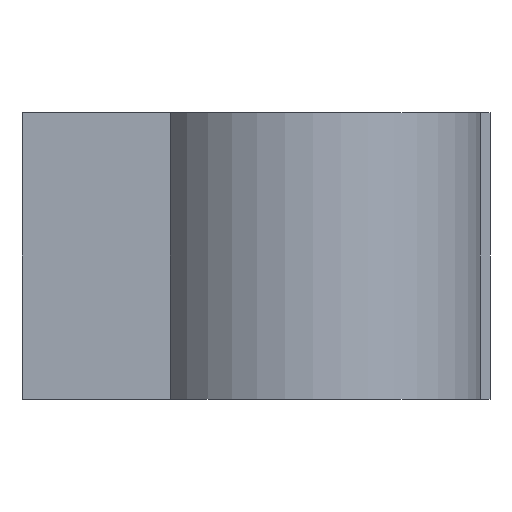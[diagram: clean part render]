
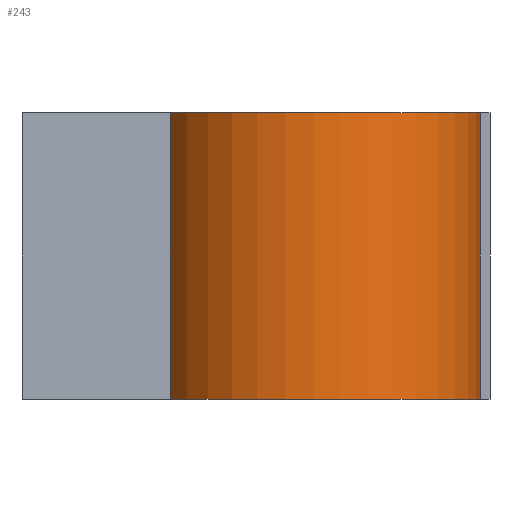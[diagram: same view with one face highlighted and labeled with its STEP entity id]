
A CAD part, front view. The second image highlights one B-rep face of the part: STEP entity #243.
In plain terms, the highlighted cylindrical face has radius 5.88 mm (diameter 11.76 mm), a partial arc.
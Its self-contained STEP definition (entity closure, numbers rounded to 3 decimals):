
#2 = VECTOR ( 'NONE', #244, 1000. ) ;
#15 = DIRECTION ( 'NONE',  ( 0., 0., 1. ) ) ;
#20 = CARTESIAN_POINT ( 'NONE',  ( 10.134, 16.494, 0. ) ) ;
#45 = FACE_OUTER_BOUND ( 'NONE', #307, .T. ) ;
#46 = VERTEX_POINT ( 'NONE', #170 ) ;
#64 = ORIENTED_EDGE ( 'NONE', *, *, #130, .F. ) ;
#67 = DIRECTION ( 'NONE',  ( 0., 0., 1. ) ) ;
#76 = CIRCLE ( 'NONE', #328, 5.88 ) ;
#80 = VERTEX_POINT ( 'NONE', #231 ) ;
#96 = CARTESIAN_POINT ( 'NONE',  ( 5.181, 13.325, 0. ) ) ;
#112 = VERTEX_POINT ( 'NONE', #96 ) ;
#114 = AXIS2_PLACEMENT_3D ( 'NONE', #276, #135, #195 ) ;
#126 = VERTEX_POINT ( 'NONE', #267 ) ;
#130 = EDGE_CURVE ( 'NONE', #126, #112, #157, .T. ) ;
#135 = DIRECTION ( 'NONE',  ( 0., 0., 1. ) ) ;
#154 = EDGE_CURVE ( 'NONE', #112, #46, #76, .T. ) ;
#157 = LINE ( 'NONE', #363, #2 ) ;
#163 = CARTESIAN_POINT ( 'NONE',  ( 13.553, 21.278, -10. ) ) ;
#170 = CARTESIAN_POINT ( 'NONE',  ( 13.553, 21.278, 0. ) ) ;
#187 = ORIENTED_EDGE ( 'NONE', *, *, #289, .T. ) ;
#190 = LINE ( 'NONE', #163, #329 ) ;
#195 = DIRECTION ( 'NONE',  ( 1., 0., 0. ) ) ;
#210 = CYLINDRICAL_SURFACE ( 'NONE', #345, 5.88 ) ;
#215 = DIRECTION ( 'NONE',  ( 1., 0., 0. ) ) ;
#231 = CARTESIAN_POINT ( 'NONE',  ( 13.553, 21.278, -10. ) ) ;
#243 = ADVANCED_FACE ( 'NONE', ( #45 ), #210, .T. ) ;
#244 = DIRECTION ( 'NONE',  ( 0., 0., 1. ) ) ;
#255 = DIRECTION ( 'NONE',  ( 0., 0., 1. ) ) ;
#267 = CARTESIAN_POINT ( 'NONE',  ( 5.181, 13.325, -10. ) ) ;
#276 = CARTESIAN_POINT ( 'NONE',  ( 10.134, 16.494, -10. ) ) ;
#281 = CIRCLE ( 'NONE', #114, 5.88 ) ;
#289 = EDGE_CURVE ( 'NONE', #126, #80, #281, .T. ) ;
#303 = ORIENTED_EDGE ( 'NONE', *, *, #154, .F. ) ;
#307 = EDGE_LOOP ( 'NONE', ( #303, #64, #187, #309 ) ) ;
#309 = ORIENTED_EDGE ( 'NONE', *, *, #316, .T. ) ;
#316 = EDGE_CURVE ( 'NONE', #80, #46, #190, .T. ) ;
#327 = CARTESIAN_POINT ( 'NONE',  ( 10.134, 16.494, -10. ) ) ;
#328 = AXIS2_PLACEMENT_3D ( 'NONE', #20, #15, #333 ) ;
#329 = VECTOR ( 'NONE', #255, 1000. ) ;
#333 = DIRECTION ( 'NONE',  ( 1., 0., 0. ) ) ;
#345 = AXIS2_PLACEMENT_3D ( 'NONE', #327, #67, #215 ) ;
#363 = CARTESIAN_POINT ( 'NONE',  ( 5.181, 13.325, -10. ) ) ;
